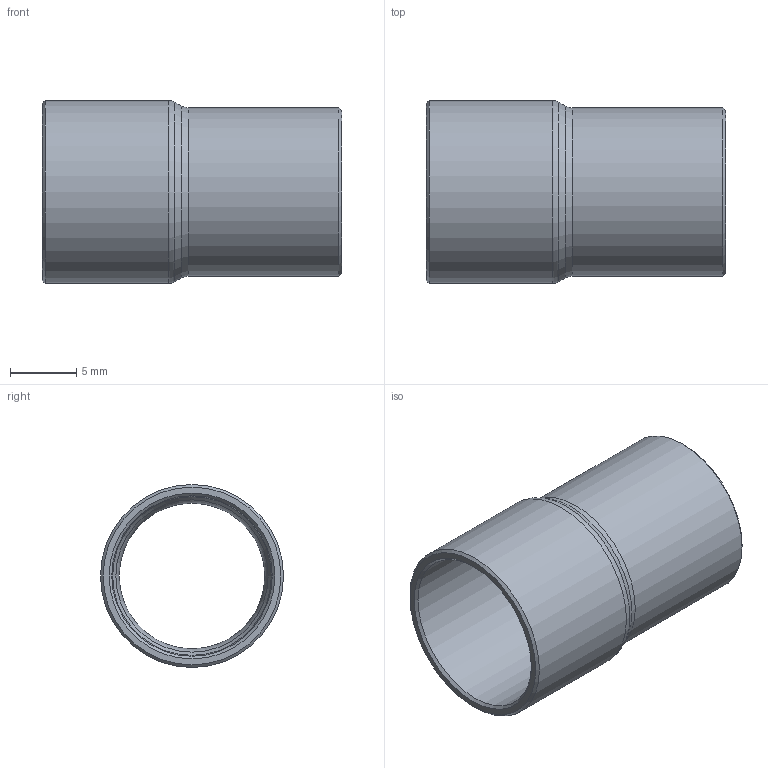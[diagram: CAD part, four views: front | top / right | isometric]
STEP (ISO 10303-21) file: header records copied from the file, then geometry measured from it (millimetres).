
FILE_DESCRIPTION((''),'2;1');
FILE_NAME('G:\SANHA-Ternat\Technik\Management\Bouwmaten + markeringen\z-maattekeningen 3D\29000s\29243IM1212_3d.stp','2017-08-07T10:29:40',('vdvijverd'),(''),'Autodesk Inventor 2009','Autodesk Inventor 2009','');
FILE_SCHEMA(('AUTOMOTIVE_DESIGN { 1 0 10303 214 1 1 1 1 }'));
Length unit declared in the file: millimetre
Products named in the file (1): 29243IM1212_3d
Bounding box: 22.6 x 13.82 x 13.82 mm (x, y, z)
Volume: 746.6 mm3; surface area: 1811.8 mm2
Topology: 1 solids, 1 shells, 16 faces, 30 edges, 16 vertices
Faces by surface type: cone 6, cylinder 4, plane 2, torus 2, bspline 2
Full cylindrical faces by diameter (mm): 11 x1, 12.12 x1, 12.7 x1, 13.82 x1
Entity records: 434 total; most frequent: CARTESIAN_POINT 137, DIRECTION 62, ORIENTED_EDGE 32, EDGE_LOOP 32, AXIS2_PLACEMENT_3D 31, VERTEX_POINT 16, CIRCLE 16, EDGE_CURVE 16
